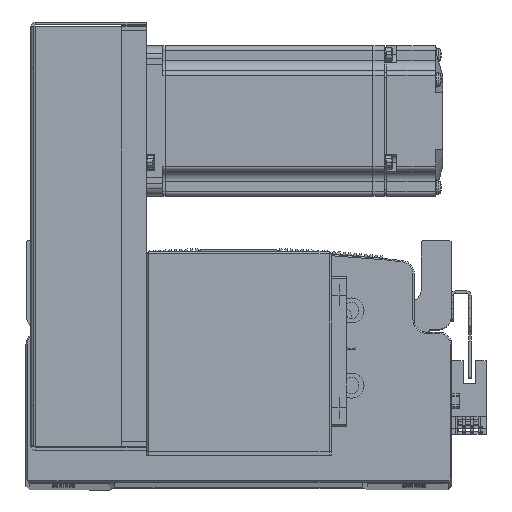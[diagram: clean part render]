
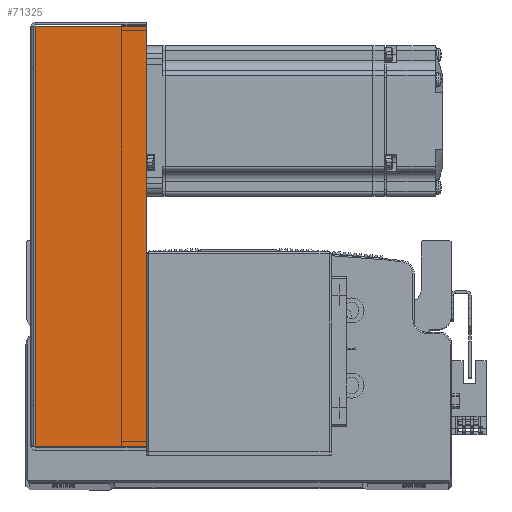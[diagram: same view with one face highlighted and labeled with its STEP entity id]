
A CAD part, top view. The second image highlights one B-rep face of the part: STEP entity #71325.
In plain terms, the highlighted planar face has unit normal (0, 0, 1) as drawn and (0, 0, -1) by its records, which use the part's own axes.
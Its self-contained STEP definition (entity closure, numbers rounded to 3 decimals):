
#150 = AXIS2_PLACEMENT_3D ( 'NONE', #83552, #83566, #83567 ) ;
#3105 = DIRECTION ( 'NONE',  ( 0., 1., 0. ) ) ;
#3128 = CARTESIAN_POINT ( 'NONE',  ( -83.793, 0., -40.5 ) ) ;
#3181 = DIRECTION ( 'NONE',  ( 1., 0., 0. ) ) ;
#3195 = CARTESIAN_POINT ( 'NONE',  ( 0., 0.737, -40.5 ) ) ;
#3198 = CARTESIAN_POINT ( 'NONE',  ( 83.793, 0., -40.5 ) ) ;
#3332 = DIRECTION ( 'NONE',  ( 0., 1., 0. ) ) ;
#3481 = CARTESIAN_POINT ( 'NONE',  ( 84.5, 45., -40.5 ) ) ;
#3493 = DIRECTION ( 'NONE',  ( 1., 0., 0. ) ) ;
#25725 = EDGE_CURVE ( 'NONE', #35928, #35892, #58543, .T. ) ;
#25731 = EDGE_CURVE ( 'NONE', #35928, #35904, #58509, .T. ) ;
#25746 = EDGE_CURVE ( 'NONE', #35904, #35920, #58515, .T. ) ;
#25779 = EDGE_CURVE ( 'NONE', #35892, #35920, #58600, .T. ) ;
#34841 = EDGE_LOOP ( 'NONE', ( #70687, #70855, #70690, #70784 ) ) ;
#35892 = VERTEX_POINT ( 'NONE', #45994 ) ;
#35904 = VERTEX_POINT ( 'NONE', #46089 ) ;
#35920 = VERTEX_POINT ( 'NONE', #46213 ) ;
#35928 = VERTEX_POINT ( 'NONE', #46120 ) ;
#45994 = CARTESIAN_POINT ( 'NONE',  ( -83.793, 45., -40.5 ) ) ;
#46089 = CARTESIAN_POINT ( 'NONE',  ( 83.793, 0.737, -40.5 ) ) ;
#46120 = CARTESIAN_POINT ( 'NONE',  ( -83.793, 0.737, -40.5 ) ) ;
#46213 = CARTESIAN_POINT ( 'NONE',  ( 83.793, 45., -40.5 ) ) ;
#58442 = VECTOR ( 'NONE', #3105, 1000. ) ;
#58472 = VECTOR ( 'NONE', #3332, 1000. ) ;
#58507 = VECTOR ( 'NONE', #3181, 1000. ) ;
#58509 = LINE ( 'NONE', #3195, #58507 ) ;
#58515 = LINE ( 'NONE', #3198, #58472 ) ;
#58543 = LINE ( 'NONE', #3128, #58442 ) ;
#58600 = LINE ( 'NONE', #3481, #58630 ) ;
#58630 = VECTOR ( 'NONE', #3493, 1000. ) ;
#70687 = ORIENTED_EDGE ( 'NONE', *, *, #25731, .F. ) ;
#70690 = ORIENTED_EDGE ( 'NONE', *, *, #25779, .T. ) ;
#70784 = ORIENTED_EDGE ( 'NONE', *, *, #25746, .F. ) ;
#70855 = ORIENTED_EDGE ( 'NONE', *, *, #25725, .T. ) ;
#71325 = ADVANCED_FACE ( 'NONE', ( #79872 ), #83592, .F. ) ;
#79872 = FACE_OUTER_BOUND ( 'NONE', #34841, .T. ) ;
#83552 = CARTESIAN_POINT ( 'NONE',  ( 0., 0., -40.5 ) ) ;
#83566 = DIRECTION ( 'NONE',  ( 0., 0., 1. ) ) ;
#83567 = DIRECTION ( 'NONE',  ( 0., -1., 0. ) ) ;
#83592 = PLANE ( 'NONE',  #150 ) ;
